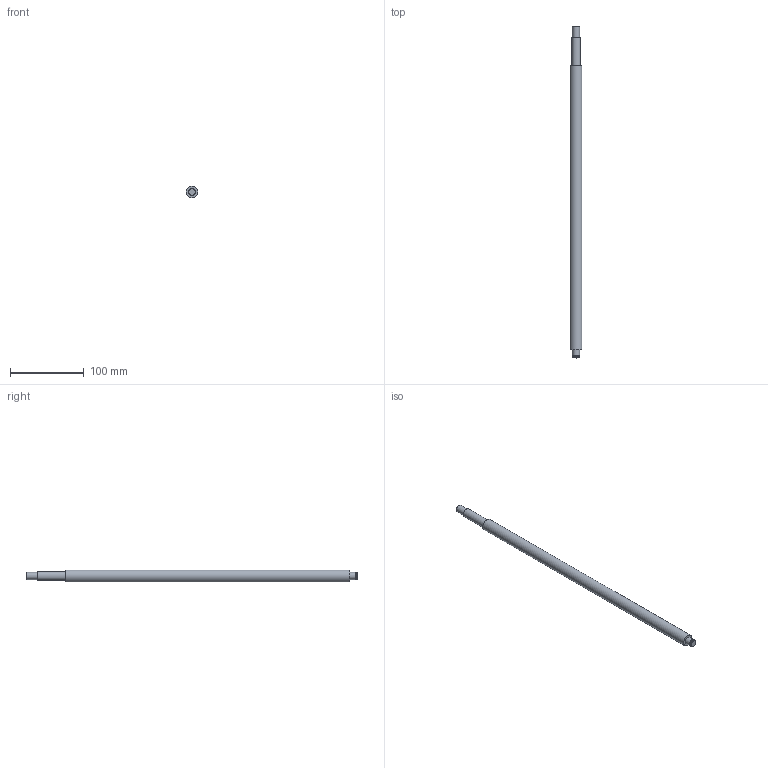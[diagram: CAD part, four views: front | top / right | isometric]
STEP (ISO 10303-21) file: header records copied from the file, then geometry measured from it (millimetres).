
FILE_DESCRIPTION(/* description */ (''),/* implementation_level */ '2;1');
FILE_NAME(/* name */ 'C:\Users\David\Desktop\stepFiles\Profilfuehrung\KUS1605x450.stp',/* time_stamp */ '2018-06-24T15:08:45+02:00',/* author */ ('David'),/* organization */ (''),/* preprocessor_version */ 'ST-DEVELOPER v17',/* originating_system */ 'Autodesk Inventor 2019',/* authorisation */ '');
FILE_SCHEMA (('AUTOMOTIVE_DESIGN { 1 0 10303 214 3 1 1 }'));
Length unit declared in the file: millimetre
Products named in the file (1): SFU1605xvariabel
Bounding box: 16 x 450 x 16 mm (x, y, z)
Volume: 83847 mm3; surface area: 22033.2 mm2
Topology: 1 solids, 1 shells, 15 faces, 34 edges, 26 vertices
Faces by surface type: plane 7, cylinder 6, cone 2
Full cylindrical faces by diameter (mm): 9.6 x1, 10 x3, 12 x1, 16 x1
Entity records: 493 total; most frequent: DIRECTION 92, CARTESIAN_POINT 76, ORIENTED_EDGE 68, AXIS2_PLACEMENT_3D 42, EDGE_CURVE 34, CIRCLE 26, VERTEX_POINT 26, EDGE_LOOP 20
